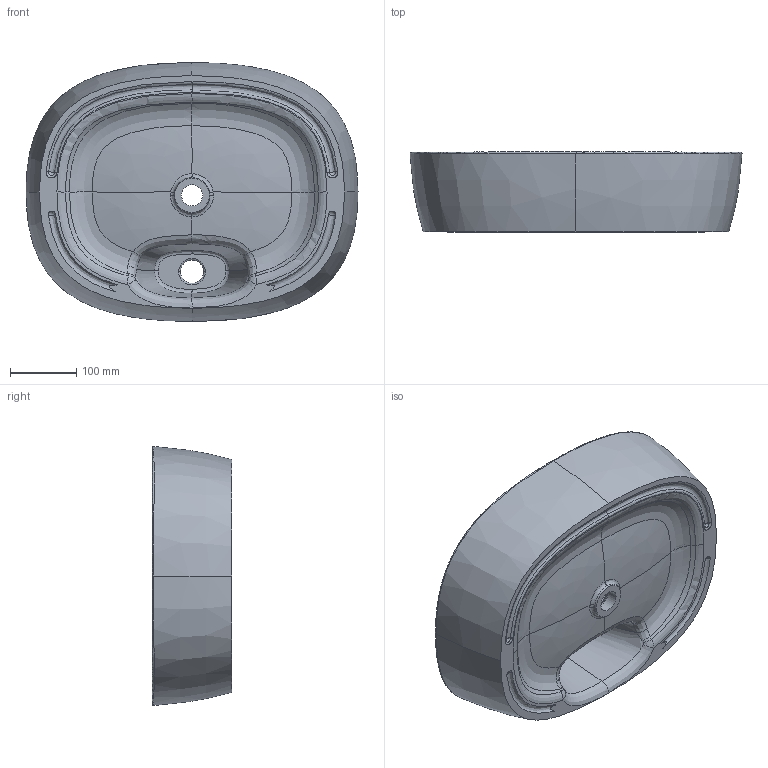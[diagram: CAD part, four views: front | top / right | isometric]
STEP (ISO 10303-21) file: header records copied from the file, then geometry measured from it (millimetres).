
FILE_DESCRIPTION((''),'2;1');
FILE_NAME('2202-TP','2022-12-25T',('Administrator'),(''),'PRO/ENGINEER BY PARAMETRIC TECHNOLOGY CORPORATION, 2015240','PRO/ENGINEER BY PARAMETRIC TECHNOLOGY CORPORATION, 2015240','');
FILE_SCHEMA(('CONFIG_CONTROL_DESIGN'));
Length unit declared in the file: millimetre
Products named in the file (1): 2202-TP
Bounding box: 499.8 x 120 x 389.71 mm (x, y, z)
Volume: 8009056.7 mm3; surface area: 564420.1 mm2
Topology: 1 solids, 1 shells, 108 faces, 251 edges, 140 vertices
Faces by surface type: bspline 88, torus 6, plane 5, cylinder 5, cone 4
Entity records: 10948 total; most frequent: CARTESIAN_POINT 9074, ORIENTED_EDGE 486, EDGE_CURVE 243, DIRECTION 211, B_SPLINE_CURVE_WITH_KNOTS 148, VERTEX_POINT 140, EDGE_LOOP 115, FACE_OUTER_BOUND 108
